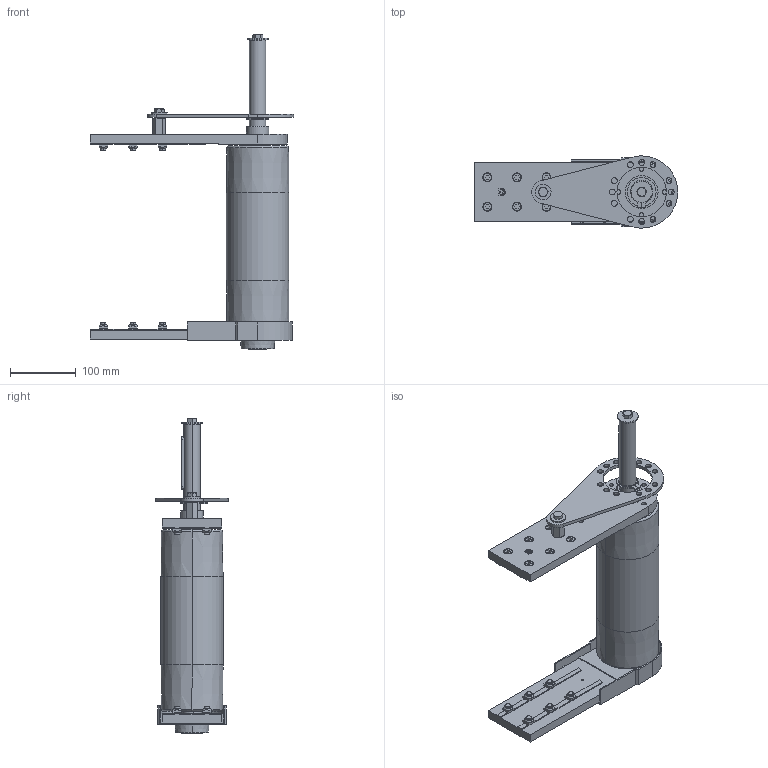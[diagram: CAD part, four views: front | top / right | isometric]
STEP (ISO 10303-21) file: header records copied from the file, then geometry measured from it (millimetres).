
FILE_DESCRIPTION (( 'STEP AP203' ), '1' );
FILE_NAME ('084.095.KD.63.250.STEP', '2015-06-03T09:02:23', ( '' ), ( '' ), 'SwSTEP 2.0', 'SolidWorks 2012', '' );
FILE_SCHEMA (( 'CONFIG_CONTROL_DESIGN' ));
Length unit declared in the file: millimetre
Products named in the file (1): 084.095.KD.63.250
Bounding box: 310 x 110 x 478.83 mm (x, y, z)
Volume: 1604804.3 mm3; surface area: 622049.9 mm2
Topology: 53 solids, 54 shells, 1352 faces, 3427 edges, 2234 vertices
Faces by surface type: plane 717, cylinder 383, cone 99, torus 96, bspline 48, sphere 9
Entity records: 42138 total; most frequent: CARTESIAN_POINT 8839, DIRECTION 6991, ORIENTED_EDGE 6810, EDGE_CURVE 3405, AXIS2_PLACEMENT_3D 2515, VERTEX_POINT 2223, LINE 1961, VECTOR 1961
